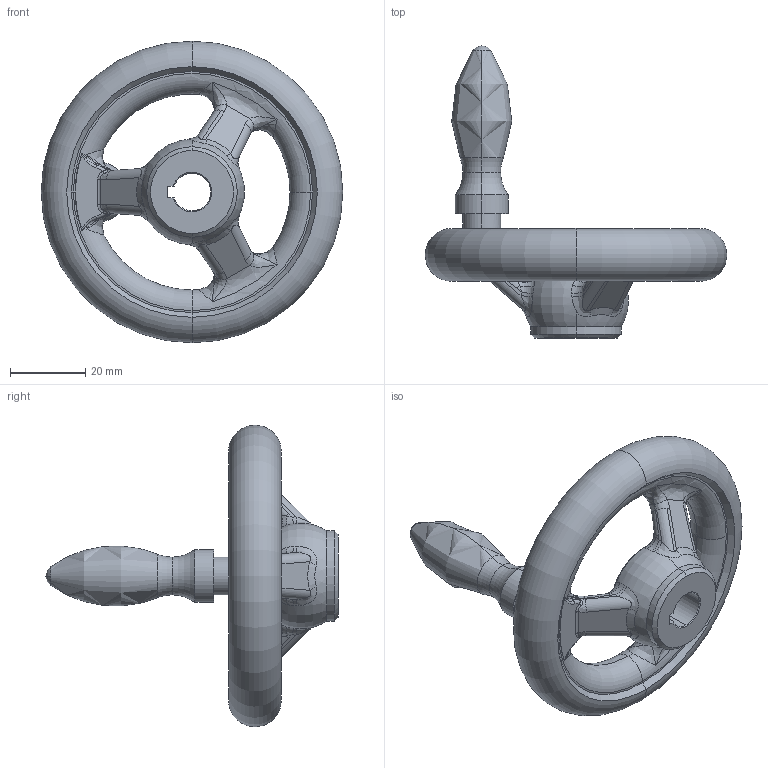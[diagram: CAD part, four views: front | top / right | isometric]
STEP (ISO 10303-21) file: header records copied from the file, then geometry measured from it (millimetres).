
FILE_DESCRIPTION (( 'STEP AP203' ), '1' );
FILE_NAME ('din950_f3_80x10.step', '2010-03-23T10:29:31', ( '_' ), ( '_' ), 'SwSTEP 2.0', 'SolidWorks 2010', '' );
FILE_SCHEMA (( 'CONFIG_CONTROL_DESIGN' ));
Length unit declared in the file: millimetre
Products named in the file (1): din950_f3_80x10
Bounding box: 79.99 x 77.5 x 79.99 mm (x, y, z)
Volume: 47070.4 mm3; surface area: 14802.9 mm2
Topology: 1 solids, 1 shells, 207 faces, 510 edges, 288 vertices
Faces by surface type: bspline 109, torus 33, cylinder 28, plane 21, cone 14, sphere 2
Entity records: 23708 total; most frequent: CARTESIAN_POINT 19419, ORIENTED_EDGE 996, DIRECTION 711, EDGE_CURVE 498, AXIS2_PLACEMENT_3D 326, VERTEX_POINT 288, CIRCLE 227, EDGE_LOOP 210
